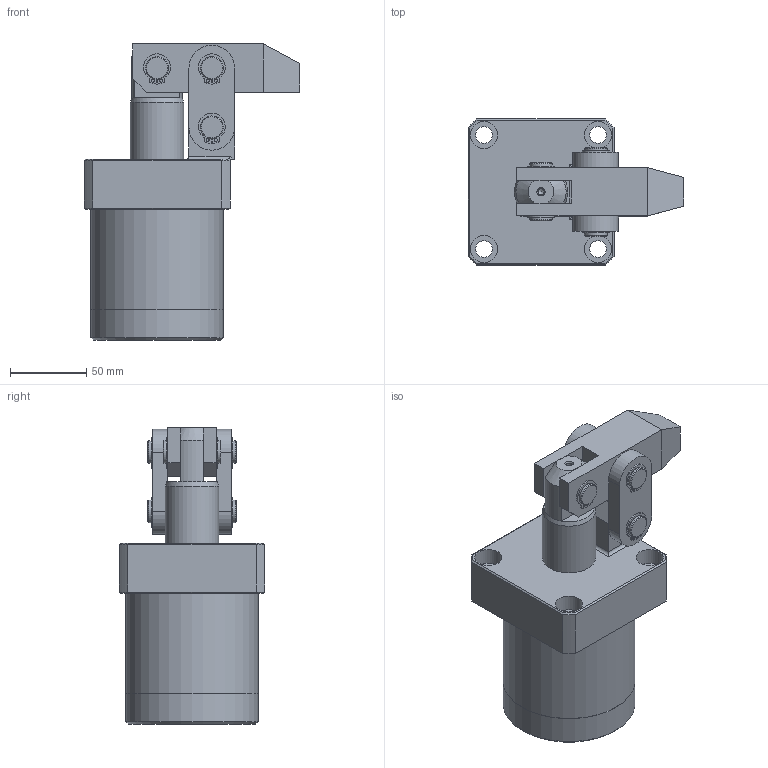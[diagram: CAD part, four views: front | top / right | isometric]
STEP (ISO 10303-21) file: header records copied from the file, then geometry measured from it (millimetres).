
FILE_DESCRIPTION(/* description */ ('Unknown'),/* implementation_level */ '2;1');
FILE_NAME(/* name */ 'HLC-FA63-A',/* time_stamp */ '2022-11-23T02:35:32+08:00',/* author */ ('Unknown'),/* organization */ ('Unknown'),/* preprocessor_version */ 'ST-DEVELOPER v16.7',/* originating_system */ 'DEX',/* authorisation */ $);
FILE_SCHEMA (('AUTOMOTIVE_DESIGN {1 0 10303 214 3 1 1}'));
Length unit declared in the file: millimetre
Products named in the file (8): HLC-FA63-A; HLC-FA63-CYLINDER; HLC-6302-AXLE CENTRE; HLC-63-A; HLC-63-乖婂湀; HLC-63-PINµu; HLC-63-PINªø; HLC-63-C扣3
Assembly tree (14 placements, depth 2):
  HLC-FA63-A
    HLC-FA63-CYLINDER
    HLC-6302-AXLE CENTRE
    HLC-63-A
    HLC-63-乖婂湀  x2
    HLC-63-PINµu
    HLC-63-PINªø  x2
    HLC-63-C扣3  x6
Bounding box: 142 x 96 x 194.8 mm (x, y, z)
Volume: 881273.4 mm3; surface area: 143012.3 mm2
Topology: 14 solids, 14 shells, 263 faces, 609 edges, 396 vertices
Faces by surface type: cylinder 121, plane 116, cone 24, torus 2
Full cylindrical faces by diameter (mm): 2 x12, 4 x1, 11 x4, 12.301 x2, 14.15 x6, 15 x18, 18 x4, 35 x2, 62.4 x1, 63 x1, 87 x2
Entity records: 4939 total; most frequent: DIRECTION 764, CARTESIAN_POINT 758, ORIENTED_EDGE 586, AXIS2_PLACEMENT_3D 316, EDGE_CURVE 293, FACE_BOUND 257, EDGE_LOOP 256, VERTEX_POINT 214
